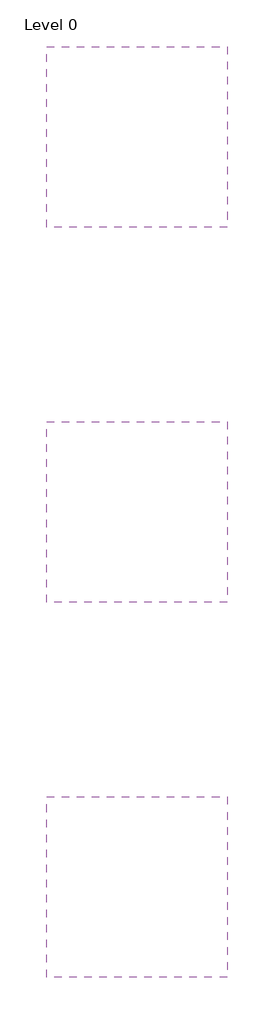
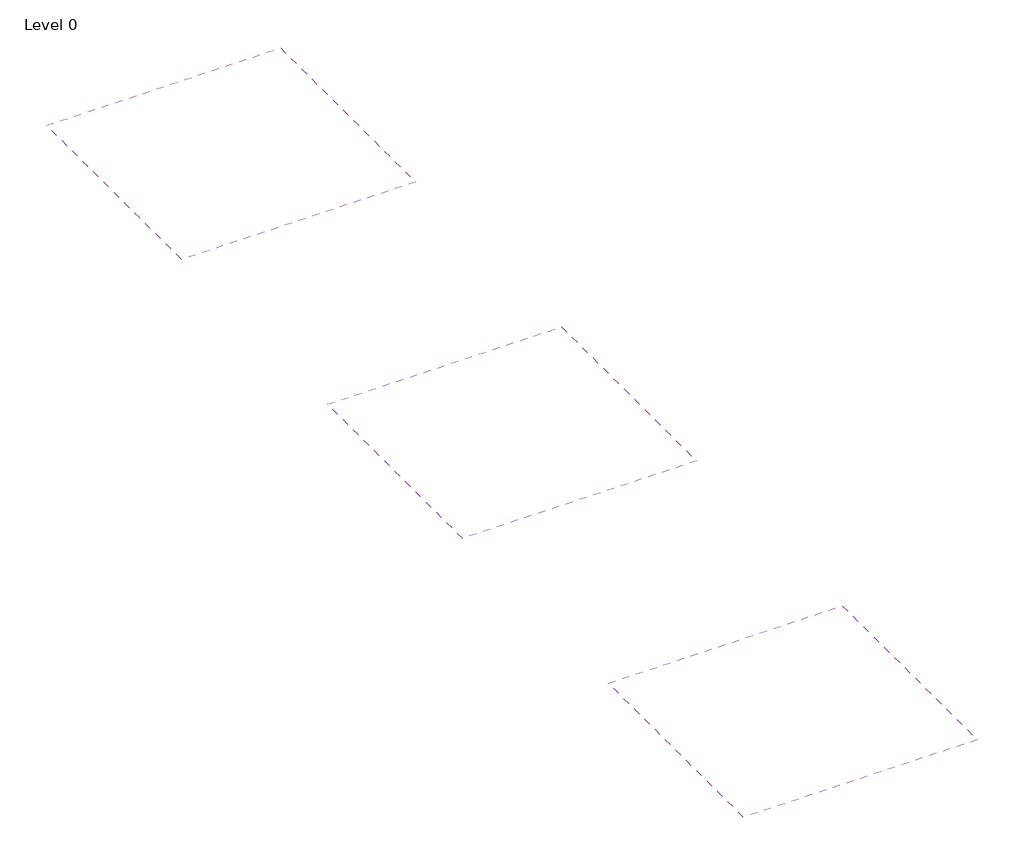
# One storey: 3 coverings.
"""IFC4 building model written with IfcOpenShell, lengths in millimetres."""

from ifc_helpers import new_model, si_unit, frame, origin, place, context, project, spatial, polyline, outline, extrude, element, save

model = new_model("IFC4")

# Units and contexts
model_context = context("Model", 3, world=origin())
ifc_project = project(units=[si_unit("LENGTHUNIT", "METRE", prefix="MILLI")], contexts=[model_context])

# Site, building, storey
site = spatial("IfcSite", under=ifc_project)
building = spatial("IfcBuilding", under=site)
storey = spatial("IfcBuildingStorey", under=building, Name="Level 0", Elevation=0.0)

# Coverings
placement = place(None, origin())
element("IfcCovering", 1, ObjectType="NBS_Zentia_ModularSuspendedCeilingSystems_HydrablocHighHumidityResistant_BoardEdgeProfiles", at=placement, inside=storey, context=model_context, shape_type="SweptSolid", body=[
    extrude(outline(polyline([(0.0, -3976.5), (0.0, -1571.5), (2405.0, -1571.5), (2405.0, -3976.5), (0.0, -3976.5)])), frame((0.0, 0.0, 2600.0), z_axis=(0.0, 0.0, 1.0), x_axis=(1.0, 0.0, 0.0)), (0.0, 0.0, 1.0), 15.0),
])
element("IfcCovering", 2, ObjectType="NBS_Zentia_ModularSuspendedCeilingSystems_HydrablocHighHumidityResistant_Tegular15EdgeProfiles", at=placement, inside=storey, context=model_context, shape_type="SweptSolid", body=[
    extrude(outline(polyline([(0.0, -8976.5), (0.0, -6571.5), (2405.0, -6571.5), (2405.0, -8976.5), (0.0, -8976.5)])), frame((0.0, 0.0, 2600.0), z_axis=(0.0, 0.0, 1.0), x_axis=(1.0, 0.0, 0.0)), (0.0, 0.0, 1.0), 15.0),
])
element("IfcCovering", 3, ObjectType="NBS_Zentia_ModularSuspendedCeilingSystems_HydrablocHighHumidityResistant_Tegular24EdgeProfiles", at=placement, inside=storey, context=model_context, shape_type="SweptSolid", body=[
    extrude(outline(polyline([(0.0, -13976.5), (0.0, -11571.5), (2405.0, -11571.5), (2405.0, -13976.5), (0.0, -13976.5)])), frame((0.0, 0.0, 2600.0), z_axis=(0.0, 0.0, 1.0), x_axis=(1.0, 0.0, 0.0)), (0.0, 0.0, 1.0), 15.0),
])

save(model, "model.ifc")
